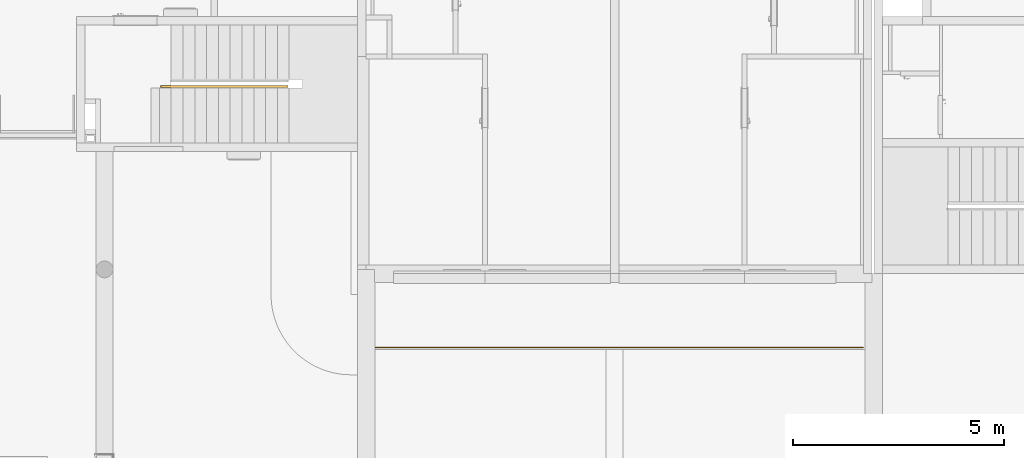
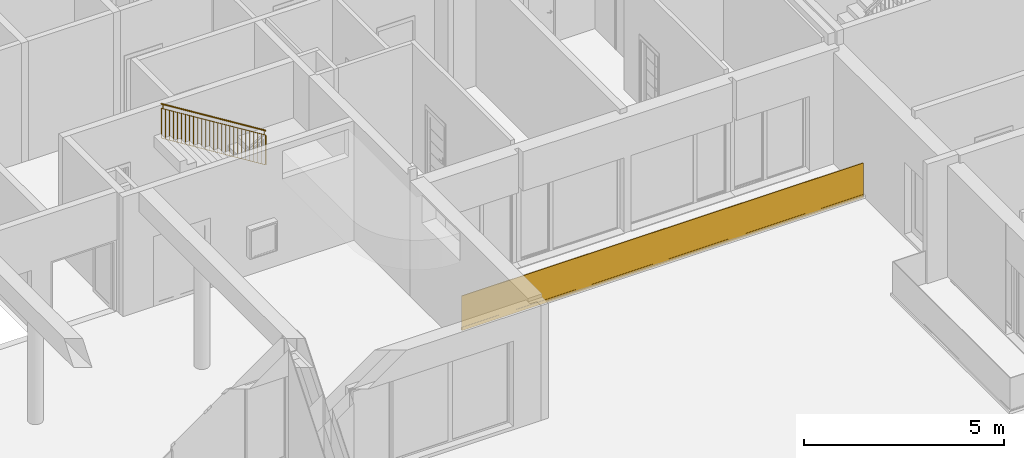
# One storey, part 6 of 46: 2 railings.
"""IFC2X3 building model written with IfcOpenShell, lengths in millimetres."""

from ifc_helpers import new_model, entity, si_unit, converted_unit, derived_unit, money_unit, direction, frame, origin_with_axes, place, context, subcontext, project, spatial, faceted_brep, material, material_list, type_object, element, save


model = new_model("IFC2X3")

# Units and contexts
model_context = context("Model", 3, precision=0.01, world=origin_with_axes(), true_north=direction((0.34421633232, 0.938890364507)))
body_context = subcontext(model_context, "Body", "Model", "MODEL_VIEW")
ifc_project = project(units=[si_unit("LENGTHUNIT", "METRE", prefix="MILLI"), si_unit("AREAUNIT", "SQUARE_METRE"), si_unit("VOLUMEUNIT", "CUBIC_METRE"), converted_unit("PLANEANGLEUNIT", "DEGREE", entity("IfcPlaneAngleMeasure", 0.0174532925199), si_unit("PLANEANGLEUNIT", "RADIAN"), dimensions=[0, 0, 0, 0, 0, 0, 0]), si_unit("SOLIDANGLEUNIT", "STERADIAN"), money_unit("USD"), converted_unit("TIMEUNIT", "Year", entity("IfcTimeMeasure", 31556926.0), si_unit("TIMEUNIT", "SECOND"), dimensions=[0, 0, 1, 0, 0, 0, 0]), si_unit("MASSUNIT", "GRAM", prefix="KILO"), si_unit("THERMODYNAMICTEMPERATUREUNIT", "DEGREE_CELSIUS"), si_unit("LUMINOUSINTENSITYUNIT", "LUMEN"), si_unit("ENERGYUNIT", "JOULE", prefix="MEGA"), derived_unit("THERMALCONDUCTANCEUNIT", [(si_unit("POWERUNIT", "WATT"), 1), (si_unit("LENGTHUNIT", "METRE"), -1), (si_unit("THERMODYNAMICTEMPERATUREUNIT", "KELVIN"), -1)]), derived_unit("SPECIFICHEATCAPACITYUNIT", [(si_unit("ENERGYUNIT", "JOULE"), 1), (si_unit("MASSUNIT", "GRAM", prefix="KILO"), -1), (si_unit("THERMODYNAMICTEMPERATUREUNIT", "KELVIN"), -1)]), derived_unit("MASSDENSITYUNIT", [(si_unit("MASSUNIT", "GRAM", prefix="KILO"), 1), (si_unit("VOLUMEUNIT", "CUBIC_METRE"), -1)])], contexts=[model_context])

# Site, building, storey
site_placement = place(None, origin_with_axes())
site = spatial("IfcSite", under=ifc_project, at=site_placement, Name="USTRONIE MORSKIE", CompositionType="ELEMENT")
building_placement = place(site_placement, origin_with_axes())
building = spatial("IfcBuilding", under=site, at=building_placement, Name="Budynek", CompositionType="ELEMENT")
storey_placement = place(building_placement, origin_with_axes())
storey = spatial("IfcBuildingStorey", under=building, at=storey_placement, Name="PARTER", CompositionType="ELEMENT", Elevation=0.0)

# Railings
ifc_material_1 = material(Name="Szkło struktualne")
ifc_material_2 = material(Name="Profile aluminiowe")
ifc_material_list_1 = material_list([ifc_material_1, ifc_material_2])
railing_type = type_object("IfcRailingType", Name="Typ balustrady", PredefinedType="NOTDEFINED")
railing_1_placement = place(storey_placement, frame((408267.938541, 724801.15153, 30.0), z_axis=(0.0, 0.0, 1.0), x_axis=(1.0, 0.0, 0.0)))
element("IfcRailing", 1, at=railing_1_placement, inside=storey, type_object=railing_type, material=ifc_material_list_1, Name="BL1", PredefinedType="NOTDEFINED", context=body_context, shape_type="Brep", body=[
    faceted_brep([(-11630.0183686, 240.0, -100.0), (-50.0, 240.0, -100.0), (-50.0, 240.0, 950.0), (-11630.0183686, 240.0, 950.0), (-50.0, 260.0, -100.0), (-11630.0183686, 260.0, -100.0), (-50.0, 260.0, 950.0), (-11630.0183686, 260.0, 950.0)], [[[0, 1, 2, 3]], [[4, 1, 0, 5]], [[6, 2, 1, 4]], [[3, 2, 6, 7]], [[0, 3, 7, 5]], [[6, 4, 5, 7]]]),
    faceted_brep([(-11630.0183686, 265.0, -5.0), (-50.0, 265.0, -5.0), (-50.0, 265.0, -105.0), (-11630.0183686, 265.0, -105.0), (-11630.0183686, 260.0, -5.0), (-50.0, 260.0, -5.0), (-50.0, 260.0, -100.0), (-50.0, 240.0, -100.0), (-50.0, 240.0, -5.0), (-50.0, 235.0, -5.0), (-50.0, 235.0, -105.0), (-11630.0183686, 235.0, -105.0), (-11630.0183686, 235.0, -5.0), (-11630.0183686, 240.0, -5.0), (-11630.0183686, 240.0, -100.0), (-11630.0183686, 260.0, -100.0)], [[[0, 1, 2, 3]], [[1, 0, 4, 5]], [[6, 7, 8, 9, 10, 2, 1, 5]], [[10, 11, 3, 2]], [[11, 12, 13, 14, 15, 4, 0, 3]], [[15, 6, 5, 4]], [[7, 6, 15, 14]], [[8, 7, 14, 13]], [[9, 8, 13, 12]], [[11, 10, 9, 12]]]),
])
ifc_material_3 = material(Name="Stal konstrukcyjna")
ifc_material_4 = material(Name="Stal nierdzewna")
ifc_material_list_2 = material_list([ifc_material_3, ifc_material_3, ifc_material_4, ifc_material_4, ifc_material_4, ifc_material_3, ifc_material_3, ifc_material_3, ifc_material_3, ifc_material_3, ifc_material_3, ifc_material_3, ifc_material_3, ifc_material_3, ifc_material_3, ifc_material_3, ifc_material_3, ifc_material_3, ifc_material_3, ifc_material_3, ifc_material_3, ifc_material_3, ifc_material_3, ifc_material_3, ifc_material_3, ifc_material_3, ifc_material_3, ifc_material_3, ifc_material_3, ifc_material_3])
railing_2_placement = place(storey_placement, frame((394597.920919, 731201.199036, 2108.06154242), z_axis=(0.0, 0.0, 1.0), x_axis=(1.0, 0.0, 0.0)))
element("IfcRailing", 2, at=railing_2_placement, inside=storey, type_object=railing_type, material=ifc_material_list_2, Name="BL1", PredefinedType="NOTDEFINED", context=body_context, shape_type="Brep", body=[
    faceted_brep([(-43.9790833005, 45.0, -143.788819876), (-43.9790833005, 25.0, -143.788819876), (-43.9790833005, 25.0, 756.211180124), (-43.9790833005, 45.0, 756.211180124), (-23.9790833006, 45.0, -156.211180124), (-23.9790833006, 25.0, -156.211180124), (-38.9790833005, 40.0, -146.894409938), (-38.9790833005, 30.0, -146.894409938), (-28.9790833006, 30.0, -153.105590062), (-28.9790833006, 40.0, -153.105590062), (-23.9790833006, 25.0, 743.788819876), (-23.9790833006, 45.0, 743.788819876), (-38.9790833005, 40.0, 753.105590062), (-28.9790833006, 40.0, 746.894409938), (-28.9790833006, 30.0, 746.894409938), (-38.9790833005, 30.0, 753.105590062)], [[[0, 1, 2, 3]], [[0, 4, 5, 1], [6, 7, 8, 9]], [[1, 5, 10, 2]], [[3, 2, 10, 11], [12, 13, 14, 15]], [[4, 0, 3, 11]], [[5, 4, 11, 10]], [[7, 6, 12, 15]], [[8, 7, 15, 14]], [[9, 8, 14, 13]], [[6, 9, 13, 12]]]),
    faceted_brep([(-3047.52614587, 45.0, 1721.76836185), (-3047.52614587, 25.0, 1721.76836185), (-3047.52614587, 25.0, 2621.76836185), (-3047.52614587, 45.0, 2621.76836185), (-3027.52614587, 45.0, 1709.3460016), (-3027.52614587, 25.0, 1709.3460016), (-3042.52614587, 40.0, 1718.66277178), (-3042.52614587, 30.0, 1718.66277178), (-3032.52614587, 30.0, 1712.45159166), (-3032.52614587, 40.0, 1712.45159166), (-3027.52614587, 25.0, 2609.3460016), (-3027.52614587, 45.0, 2609.3460016), (-3042.52614587, 40.0, 2618.66277178), (-3032.52614587, 40.0, 2612.45159166), (-3032.52614587, 30.0, 2612.45159166), (-3042.52614587, 30.0, 2618.66277178)], [[[0, 1, 2, 3]], [[0, 4, 5, 1], [6, 7, 8, 9]], [[1, 5, 10, 2]], [[3, 2, 10, 11], [12, 13, 14, 15]], [[4, 0, 3, 11]], [[5, 4, 11, 10]], [[7, 6, 12, 15]], [[8, 7, 15, 14]], [[9, 8, 14, 13]], [[6, 9, 13, 12]]]),
    faceted_brep([(-33.9790833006, 59.9999999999, 900.0), (-47.1697212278, 59.9999999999, 878.763072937), (-3050.7167838, 59.9999999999, 2744.32025466), (-3037.52614587, 59.9999999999, 2765.55718172), (-33.9790833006, 9.99999999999, 900.0), (-47.1697212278, 9.99999999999, 878.763072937), (-47.1697212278, 25.0, 878.763072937), (-44.5315936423, 25.0, 883.01045835), (-44.5315936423, 45.0, 883.01045835), (-47.1697212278, 45.0, 878.763072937), (-3050.7167838, 45.0, 2744.32025466), (-3048.07865622, 45.0, 2748.56764007), (-3048.07865622, 25.0, 2748.56764007), (-3050.7167838, 25.0, 2744.32025466), (-3050.7167838, 9.99999999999, 2744.32025466), (-3037.52614587, 9.99999999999, 2765.55718172)], [[[0, 1, 2, 3]], [[0, 4, 5, 6, 7, 8, 9, 1]], [[1, 9, 10, 2]], [[3, 2, 10, 11, 12, 13, 14, 15]], [[4, 0, 3, 15]], [[5, 4, 15, 14]], [[6, 5, 14, 13]], [[7, 6, 13, 12]], [[8, 7, 12, 11]], [[9, 8, 11, 10]]]),
    faceted_brep([(-47.1697212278, 45.0, 878.763072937), (-47.1697212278, 25.0, 878.763072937), (-3050.7167838, 25.0, 2744.32025466), (-3050.7167838, 45.0, 2744.32025466), (-44.5315936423, 45.0, 883.01045835), (-44.5315936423, 25.0, 883.01045835), (-3048.07865622, 25.0, 2748.56764007), (-3048.07865622, 45.0, 2748.56764007)], [[[0, 1, 2, 3]], [[0, 4, 5, 1]], [[1, 5, 6, 2]], [[3, 2, 6, 7]], [[4, 0, 3, 7]], [[5, 4, 7, 6]]]),
    faceted_brep([(-78.9529374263, 45.0, 776.95140598), (-78.9529374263, 25.0, 776.95140598), (-78.9529374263, 25.0, 898.504201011), (-78.9529374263, 45.0, 898.504201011), (-73.9529374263, 45.0, 776.95140598), (-73.9529374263, 25.0, 776.95140598), (-73.9529374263, 25.0, 896.95140598), (-76.4529374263, 25.0, 898.504201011), (-76.4529374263, 45.0, 898.504201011), (-73.9529374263, 45.0, 896.95140598)], [[[0, 1, 2, 3]], [[0, 4, 5, 1]], [[1, 5, 6, 7, 2]], [[3, 2, 7, 8]], [[4, 0, 3, 8, 9]], [[5, 4, 9, 6]], [[7, 6, 9, 8]]]),
    faceted_brep([(-2997.55229175, 45.0, 2589.74603599), (-2997.55229175, 25.0, 2589.74603599), (-2997.55229175, 25.0, 2711.29883102), (-2997.55229175, 45.0, 2711.29883102), (-2992.55229175, 45.0, 2589.74603599), (-2992.55229175, 25.0, 2589.74603599), (-2992.55229175, 25.0, 2709.74603599), (-2995.05229175, 25.0, 2711.29883102), (-2995.05229175, 45.0, 2711.29883102), (-2992.55229175, 45.0, 2709.74603599)], [[[0, 1, 2, 3]], [[0, 4, 5, 1]], [[1, 5, 6, 7, 2]], [[3, 2, 7, 8]], [[4, 0, 3, 8, 9]], [[5, 4, 9, 6]], [[7, 6, 9, 8]]]),
    faceted_brep([(-33.9790833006, 54.9999999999, 750.0), (-36.617210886, 54.9999999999, 745.752614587), (-3040.16427346, 54.9999999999, 2611.30979631), (-3037.52614587, 54.9999999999, 2615.55718172), (-33.9790833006, 15.0, 750.0), (-36.617210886, 15.0, 745.752614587), (-3040.16427346, 15.0, 2611.30979631), (-3037.52614587, 15.0, 2615.55718172)], [[[0, 1, 2, 3]], [[0, 4, 5, 1]], [[1, 5, 6, 2]], [[3, 2, 6, 7]], [[4, 0, 3, 7]], [[5, 4, 7, 6]]]),
    faceted_brep([(-32.6600195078, 54.9999999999, -157.876307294), (-35.2981470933, 54.9999999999, -162.123692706), (-3038.84520967, 54.9999999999, 1703.43348902), (-3036.20708208, 54.9999999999, 1707.68087443), (-32.6600195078, 15.0, -157.876307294), (-35.2981470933, 15.0, -162.123692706), (-3038.84520967, 15.0, 1703.43348902), (-3036.20708208, 15.0, 1707.68087443)], [[[0, 1, 2, 3]], [[0, 4, 5, 1]], [[1, 5, 6, 2]], [[3, 2, 6, 7]], [[4, 0, 3, 7]], [[5, 4, 7, 6]]]),
    faceted_brep([(-152.000124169, 47.5, -81.6950056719), (-152.000124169, 22.4999999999, -81.6950056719), (-152.000124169, 22.4999999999, 818.304994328), (-152.000124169, 47.5, 818.304994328), (-147.000124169, 47.5, -84.800595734), (-147.000124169, 22.4999999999, -84.800595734), (-147.000124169, 22.4999999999, 815.199404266), (-147.000124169, 47.5, 815.199404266)], [[[0, 1, 2, 3]], [[0, 4, 5, 1]], [[1, 5, 6, 2]], [[3, 2, 6, 7]], [[4, 0, 3, 7]], [[5, 4, 7, 6]]]),
    faceted_brep([(-267.521165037, 47.5, -9.94280637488), (-267.521165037, 22.4999999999, -9.94280637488), (-267.521165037, 22.4999999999, 890.057193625), (-267.521165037, 47.5, 890.057193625), (-262.521165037, 47.5, -13.048396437), (-262.521165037, 22.4999999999, -13.048396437), (-262.521165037, 22.4999999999, 886.951603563), (-262.521165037, 47.5, 886.951603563)], [[[0, 1, 2, 3]], [[0, 4, 5, 1]], [[1, 5, 6, 2]], [[3, 2, 6, 7]], [[4, 0, 3, 7]], [[5, 4, 7, 6]]]),
    faceted_brep([(-383.042205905, 47.5, 61.8093929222), (-383.042205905, 22.4999999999, 61.8093929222), (-383.042205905, 22.4999999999, 961.809392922), (-383.042205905, 47.5, 961.809392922), (-378.042205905, 47.5, 58.70380286), (-378.042205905, 22.4999999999, 58.70380286), (-378.042205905, 22.4999999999, 958.70380286), (-378.042205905, 47.5, 958.70380286)], [[[0, 1, 2, 3]], [[0, 4, 5, 1]], [[1, 5, 6, 2]], [[3, 2, 6, 7]], [[4, 0, 3, 7]], [[5, 4, 7, 6]]]),
    faceted_brep([(-498.563246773, 47.5, 133.561592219), (-498.563246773, 22.4999999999, 133.561592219), (-498.563246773, 22.4999999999, 1033.56159222), (-498.563246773, 47.5, 1033.56159222), (-493.563246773, 47.5, 130.456002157), (-493.563246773, 22.4999999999, 130.456002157), (-493.563246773, 22.4999999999, 1030.45600216), (-493.563246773, 47.5, 1030.45600216)], [[[0, 1, 2, 3]], [[0, 4, 5, 1]], [[1, 5, 6, 2]], [[3, 2, 6, 7]], [[4, 0, 3, 7]], [[5, 4, 7, 6]]]),
    faceted_brep([(-614.084287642, 47.5, 205.313791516), (-614.084287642, 22.4999999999, 205.313791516), (-614.084287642, 22.4999999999, 1105.31379152), (-614.084287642, 47.5, 1105.31379152), (-609.084287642, 47.5, 202.208201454), (-609.084287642, 22.4999999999, 202.208201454), (-609.084287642, 22.4999999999, 1102.20820145), (-609.084287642, 47.5, 1102.20820145)], [[[0, 1, 2, 3]], [[0, 4, 5, 1]], [[1, 5, 6, 2]], [[3, 2, 6, 7]], [[4, 0, 3, 7]], [[5, 4, 7, 6]]]),
    faceted_brep([(-729.60532851, 47.5, 277.065990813), (-729.60532851, 22.4999999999, 277.065990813), (-729.60532851, 22.4999999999, 1177.06599081), (-729.60532851, 47.5, 1177.06599081), (-724.60532851, 47.5, 273.960400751), (-724.60532851, 22.4999999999, 273.960400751), (-724.60532851, 22.4999999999, 1173.96040075), (-724.60532851, 47.5, 1173.96040075)], [[[0, 1, 2, 3]], [[0, 4, 5, 1]], [[1, 5, 6, 2]], [[3, 2, 6, 7]], [[4, 0, 3, 7]], [[5, 4, 7, 6]]]),
    faceted_brep([(-845.126369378, 47.5, 348.81819011), (-845.126369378, 22.4999999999, 348.81819011), (-845.126369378, 22.4999999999, 1248.81819011), (-845.126369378, 47.5, 1248.81819011), (-840.126369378, 47.5, 345.712600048), (-840.126369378, 22.4999999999, 345.712600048), (-840.126369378, 22.4999999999, 1245.71260005), (-840.126369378, 47.5, 1245.71260005)], [[[0, 1, 2, 3]], [[0, 4, 5, 1]], [[1, 5, 6, 2]], [[3, 2, 6, 7]], [[4, 0, 3, 7]], [[5, 4, 7, 6]]]),
    faceted_brep([(-960.647410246, 47.5, 420.570389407), (-960.647410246, 22.4999999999, 420.570389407), (-960.647410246, 22.4999999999, 1320.57038941), (-960.647410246, 47.5, 1320.57038941), (-955.647410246, 47.5, 417.464799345), (-955.647410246, 22.4999999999, 417.464799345), (-955.647410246, 22.4999999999, 1317.46479935), (-955.647410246, 47.5, 1317.46479935)], [[[0, 1, 2, 3]], [[0, 4, 5, 1]], [[1, 5, 6, 2]], [[3, 2, 6, 7]], [[4, 0, 3, 7]], [[5, 4, 7, 6]]]),
    faceted_brep([(-1076.16845111, 47.5, 492.322588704), (-1076.16845111, 22.4999999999, 492.322588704), (-1076.16845111, 22.4999999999, 1392.3225887), (-1076.16845111, 47.5, 1392.3225887), (-1071.16845111, 47.5, 489.216998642), (-1071.16845111, 22.4999999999, 489.216998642), (-1071.16845111, 22.4999999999, 1389.21699864), (-1071.16845111, 47.5, 1389.21699864)], [[[0, 1, 2, 3]], [[0, 4, 5, 1]], [[1, 5, 6, 2]], [[3, 2, 6, 7]], [[4, 0, 3, 7]], [[5, 4, 7, 6]]]),
    faceted_brep([(-1191.68949198, 47.5, 564.074788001), (-1191.68949198, 22.4999999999, 564.074788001), (-1191.68949198, 22.4999999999, 1464.074788), (-1191.68949198, 47.5, 1464.074788), (-1186.68949198, 47.5, 560.969197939), (-1186.68949198, 22.4999999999, 560.969197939), (-1186.68949198, 22.4999999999, 1460.96919794), (-1186.68949198, 47.5, 1460.96919794)], [[[0, 1, 2, 3]], [[0, 4, 5, 1]], [[1, 5, 6, 2]], [[3, 2, 6, 7]], [[4, 0, 3, 7]], [[5, 4, 7, 6]]]),
    faceted_brep([(-1307.21053285, 47.5, 635.826987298), (-1307.21053285, 22.4999999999, 635.826987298), (-1307.21053285, 22.4999999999, 1535.8269873), (-1307.21053285, 47.5, 1535.8269873), (-1302.21053285, 47.5, 632.721397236), (-1302.21053285, 22.4999999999, 632.721397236), (-1302.21053285, 22.4999999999, 1532.72139724), (-1302.21053285, 47.5, 1532.72139724)], [[[0, 1, 2, 3]], [[0, 4, 5, 1]], [[1, 5, 6, 2]], [[3, 2, 6, 7]], [[4, 0, 3, 7]], [[5, 4, 7, 6]]]),
    faceted_brep([(-1422.73157372, 47.5, 707.579186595), (-1422.73157372, 22.4999999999, 707.579186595), (-1422.73157372, 22.4999999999, 1607.5791866), (-1422.73157372, 47.5, 1607.5791866), (-1417.73157372, 47.5, 704.473596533), (-1417.73157372, 22.4999999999, 704.473596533), (-1417.73157372, 22.4999999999, 1604.47359653), (-1417.73157372, 47.5, 1604.47359653)], [[[0, 1, 2, 3]], [[0, 4, 5, 1]], [[1, 5, 6, 2]], [[3, 2, 6, 7]], [[4, 0, 3, 7]], [[5, 4, 7, 6]]]),
    faceted_brep([(-1538.25261459, 47.5, 779.331385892), (-1538.25261459, 22.4999999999, 779.331385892), (-1538.25261459, 22.4999999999, 1679.33138589), (-1538.25261459, 47.5, 1679.33138589), (-1533.25261459, 47.5, 776.22579583), (-1533.25261459, 22.4999999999, 776.22579583), (-1533.25261459, 22.4999999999, 1676.22579583), (-1533.25261459, 47.5, 1676.22579583)], [[[0, 1, 2, 3]], [[0, 4, 5, 1]], [[1, 5, 6, 2]], [[3, 2, 6, 7]], [[4, 0, 3, 7]], [[5, 4, 7, 6]]]),
    faceted_brep([(-1653.77365546, 47.5, 851.08358519), (-1653.77365546, 22.4999999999, 851.08358519), (-1653.77365546, 22.4999999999, 1751.08358519), (-1653.77365546, 47.5, 1751.08358519), (-1648.77365546, 47.5, 847.977995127), (-1648.77365546, 22.4999999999, 847.977995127), (-1648.77365546, 22.4999999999, 1747.97799513), (-1648.77365546, 47.5, 1747.97799513)], [[[0, 1, 2, 3]], [[0, 4, 5, 1]], [[1, 5, 6, 2]], [[3, 2, 6, 7]], [[4, 0, 3, 7]], [[5, 4, 7, 6]]]),
    faceted_brep([(-1769.29469632, 47.5, 922.835784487), (-1769.29469632, 22.4999999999, 922.835784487), (-1769.29469632, 22.4999999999, 1822.83578449), (-1769.29469632, 47.5, 1822.83578449), (-1764.29469632, 47.5, 919.730194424), (-1764.29469632, 22.4999999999, 919.730194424), (-1764.29469632, 22.4999999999, 1819.73019442), (-1764.29469632, 47.5, 1819.73019442)], [[[0, 1, 2, 3]], [[0, 4, 5, 1]], [[1, 5, 6, 2]], [[3, 2, 6, 7]], [[4, 0, 3, 7]], [[5, 4, 7, 6]]]),
    faceted_brep([(-1884.81573719, 47.5, 994.587983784), (-1884.81573719, 22.4999999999, 994.587983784), (-1884.81573719, 22.4999999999, 1894.58798378), (-1884.81573719, 47.5, 1894.58798378), (-1879.81573719, 47.5, 991.482393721), (-1879.81573719, 22.4999999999, 991.482393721), (-1879.81573719, 22.4999999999, 1891.48239372), (-1879.81573719, 47.5, 1891.48239372)], [[[0, 1, 2, 3]], [[0, 4, 5, 1]], [[1, 5, 6, 2]], [[3, 2, 6, 7]], [[4, 0, 3, 7]], [[5, 4, 7, 6]]]),
    faceted_brep([(-2000.33677806, 47.5, 1066.34018308), (-2000.33677806, 22.4999999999, 1066.34018308), (-2000.33677806, 22.4999999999, 1966.34018308), (-2000.33677806, 47.5, 1966.34018308), (-1995.33677806, 47.5, 1063.23459302), (-1995.33677806, 22.4999999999, 1063.23459302), (-1995.33677806, 22.4999999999, 1963.23459302), (-1995.33677806, 47.5, 1963.23459302)], [[[0, 1, 2, 3]], [[0, 4, 5, 1]], [[1, 5, 6, 2]], [[3, 2, 6, 7]], [[4, 0, 3, 7]], [[5, 4, 7, 6]]]),
    faceted_brep([(-2115.85781893, 47.5, 1138.09238238), (-2115.85781893, 22.4999999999, 1138.09238238), (-2115.85781893, 22.4999999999, 2038.09238238), (-2115.85781893, 47.5, 2038.09238238), (-2110.85781893, 47.5, 1134.98679232), (-2110.85781893, 22.4999999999, 1134.98679232), (-2110.85781893, 22.4999999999, 2034.98679232), (-2110.85781893, 47.5, 2034.98679232)], [[[0, 1, 2, 3]], [[0, 4, 5, 1]], [[1, 5, 6, 2]], [[3, 2, 6, 7]], [[4, 0, 3, 7]], [[5, 4, 7, 6]]]),
    faceted_brep([(-2231.3788598, 47.5, 1209.84458167), (-2231.3788598, 22.4999999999, 1209.84458167), (-2231.3788598, 22.4999999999, 2109.84458167), (-2231.3788598, 47.5, 2109.84458167), (-2226.3788598, 47.5, 1206.73899161), (-2226.3788598, 22.4999999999, 1206.73899161), (-2226.3788598, 22.4999999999, 2106.73899161), (-2226.3788598, 47.5, 2106.73899161)], [[[0, 1, 2, 3]], [[0, 4, 5, 1]], [[1, 5, 6, 2]], [[3, 2, 6, 7]], [[4, 0, 3, 7]], [[5, 4, 7, 6]]]),
    faceted_brep([(-2346.89990066, 47.5, 1281.59678097), (-2346.89990066, 22.4999999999, 1281.59678097), (-2346.89990066, 22.4999999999, 2181.59678097), (-2346.89990066, 47.5, 2181.59678097), (-2341.89990066, 47.5, 1278.49119091), (-2341.89990066, 22.4999999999, 1278.49119091), (-2341.89990066, 22.4999999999, 2178.49119091), (-2341.89990066, 47.5, 2178.49119091)], [[[0, 1, 2, 3]], [[0, 4, 5, 1]], [[1, 5, 6, 2]], [[3, 2, 6, 7]], [[4, 0, 3, 7]], [[5, 4, 7, 6]]]),
    faceted_brep([(-2462.42094153, 47.5, 1353.34898027), (-2462.42094153, 22.4999999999, 1353.34898027), (-2462.42094153, 22.4999999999, 2253.34898027), (-2462.42094153, 47.5, 2253.34898027), (-2457.42094153, 47.5, 1350.24339021), (-2457.42094153, 22.4999999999, 1350.24339021), (-2457.42094153, 22.4999999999, 2250.24339021), (-2457.42094153, 47.5, 2250.24339021)], [[[0, 1, 2, 3]], [[0, 4, 5, 1]], [[1, 5, 6, 2]], [[3, 2, 6, 7]], [[4, 0, 3, 7]], [[5, 4, 7, 6]]]),
    faceted_brep([(-2577.9419824, 47.5, 1425.10117957), (-2577.9419824, 22.4999999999, 1425.10117957), (-2577.9419824, 22.4999999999, 2325.10117957), (-2577.9419824, 47.5, 2325.10117957), (-2572.9419824, 47.5, 1421.9955895), (-2572.9419824, 22.4999999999, 1421.9955895), (-2572.9419824, 22.4999999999, 2321.9955895), (-2572.9419824, 47.5, 2321.9955895)], [[[0, 1, 2, 3]], [[0, 4, 5, 1]], [[1, 5, 6, 2]], [[3, 2, 6, 7]], [[4, 0, 3, 7]], [[5, 4, 7, 6]]]),
    faceted_brep([(-2693.46302327, 47.5, 1496.85337886), (-2693.46302327, 22.4999999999, 1496.85337886), (-2693.46302327, 22.4999999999, 2396.85337886), (-2693.46302327, 47.5, 2396.85337886), (-2688.46302327, 47.5, 1493.7477888), (-2688.46302327, 22.4999999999, 1493.7477888), (-2688.46302327, 22.4999999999, 2393.7477888), (-2688.46302327, 47.5, 2393.7477888)], [[[0, 1, 2, 3]], [[0, 4, 5, 1]], [[1, 5, 6, 2]], [[3, 2, 6, 7]], [[4, 0, 3, 7]], [[5, 4, 7, 6]]]),
    faceted_brep([(-2808.98406414, 47.5, 1568.60557816), (-2808.98406414, 22.4999999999, 1568.60557816), (-2808.98406414, 22.4999999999, 2468.60557816), (-2808.98406414, 47.5, 2468.60557816), (-2803.98406414, 47.5, 1565.4999881), (-2803.98406414, 22.4999999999, 1565.4999881), (-2803.98406414, 22.4999999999, 2465.4999881), (-2803.98406414, 47.5, 2465.4999881)], [[[0, 1, 2, 3]], [[0, 4, 5, 1]], [[1, 5, 6, 2]], [[3, 2, 6, 7]], [[4, 0, 3, 7]], [[5, 4, 7, 6]]]),
    faceted_brep([(-2924.50510501, 47.5, 1640.35777746), (-2924.50510501, 22.4999999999, 1640.35777746), (-2924.50510501, 22.4999999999, 2540.35777746), (-2924.50510501, 47.5, 2540.35777746), (-2919.50510501, 47.5, 1637.25218739), (-2919.50510501, 22.4999999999, 1637.25218739), (-2919.50510501, 22.4999999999, 2537.25218739), (-2919.50510501, 47.5, 2537.25218739)], [[[0, 1, 2, 3]], [[0, 4, 5, 1]], [[1, 5, 6, 2]], [[3, 2, 6, 7]], [[4, 0, 3, 7]], [[5, 4, 7, 6]]]),
])

save(model, "model.ifc")
